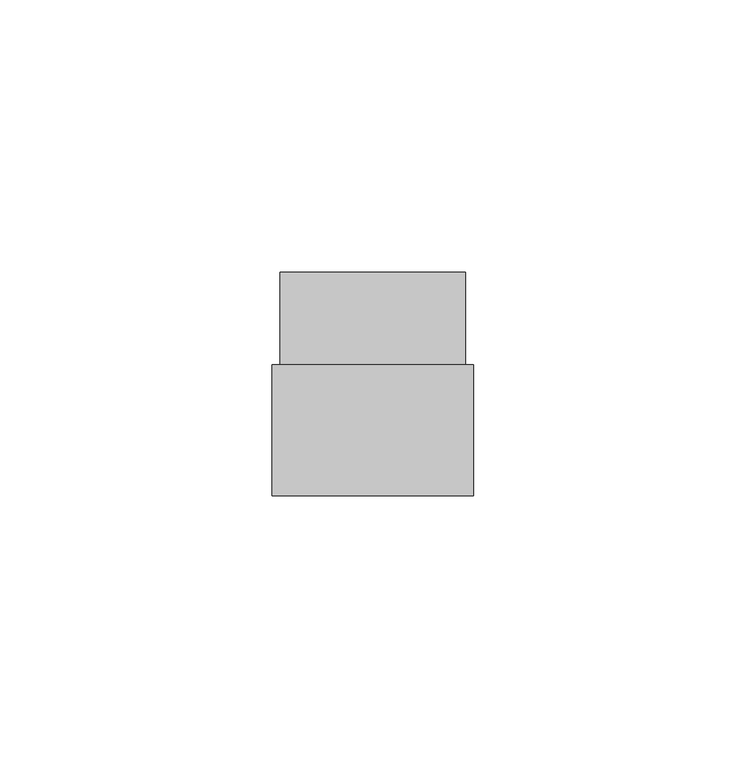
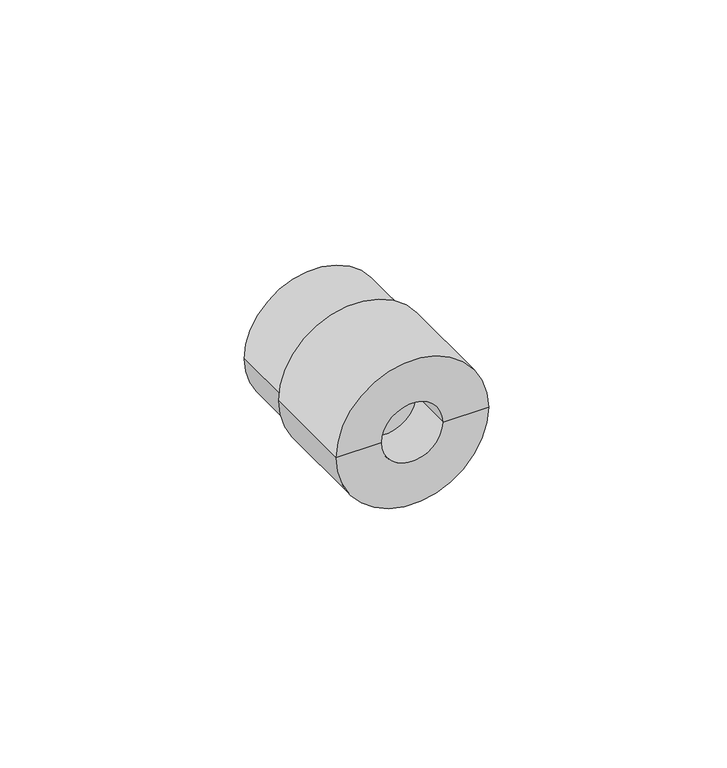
"""IFC4 building model written with IfcOpenShell, lengths in millimetres: pipe fitting geometry, NIRON RED termofusion roscado enlace rosca hembra : Estándar."""

from ifc_helpers import new_model, si_unit, frame, origin, place, context, project, spatial, polyline, circle_curve, source, transform, mapped, element, save
from ifc_brep_helpers import plane_surface, cylinder_surface, revolved_surface, advanced_brep


def pipe_fitting_128d8ab8(model_context):
    return source(origin(), model_context, "Body", "AdvancedBrep", [
        advanced_brep(
        [(17.0, 41.0, 0.0), (-17.0, 41.0, 0.0), (0.0, 41.0, 0.0), (18.5, 0.0, 0.0), (-18.5, 0.0, 0.0), (-18.5, 24.0, 0.0), (18.5, 24.0, 0.0), (7.5, 0.0, 0.0), (-7.5, 0.0, 0.0), (17.0, 24.0, 0.0), (-17.0, 24.0, 0.0), (-7.5, 11.5, 0.0), (7.5, 11.5, 0.0)],
        [
            (0, 1, circle_curve(frame((0.0, 41.0, 0.0), z_axis=(0.0, 1.0, 0.0), x_axis=(-1.0, 0.0, 0.0)), 17.0)),
            (1, 2),
            (2, 0),
            (1, 0, circle_curve(frame((0.0, 41.0, 0.0), z_axis=(0.0, 1.0, 0.0), x_axis=(-1.0, 0.0, 0.0)), 17.0)),
            (3, 4, circle_curve(frame((0.0, 0.0, 0.0), z_axis=(0.0, 1.0, 0.0), x_axis=(-1.0, 0.0, 0.0)), 18.5)),
            (4, 5),
            (5, 6, circle_curve(frame((0.0, 24.0, 0.0), z_axis=(0.0, -1.0, 0.0), x_axis=(-1.0, 0.0, 0.0)), 18.5)),
            (6, 3),
            (4, 3, circle_curve(frame((0.0, 0.0, 0.0), z_axis=(0.0, 1.0, 0.0), x_axis=(-1.0, 0.0, 0.0)), 18.5)),
            (6, 5, circle_curve(frame((0.0, 24.0, 0.0), z_axis=(0.0, -1.0, 0.0), x_axis=(-1.0, 0.0, 0.0)), 18.5)),
            (3, 7),
            (7, 8, circle_curve(frame((0.0, 0.0, 0.0), z_axis=(0.0, 1.0, 0.0), x_axis=(1.0, 0.0, 0.0)), 7.5)),
            (8, 4),
            (8, 7, circle_curve(frame((0.0, 0.0, 0.0), z_axis=(0.0, 1.0, 0.0), x_axis=(1.0, 0.0, 0.0)), 7.5)),
            (0, 9),
            (9, 10, circle_curve(frame((0.0, 24.0, 0.0), z_axis=(0.0, 1.0, 0.0), x_axis=(-1.0, 0.0, 0.0)), 17.0)),
            (10, 1),
            (10, 9, circle_curve(frame((0.0, 24.0, 0.0), z_axis=(0.0, 1.0, 0.0), x_axis=(-1.0, 0.0, 0.0)), 17.0)),
            (5, 10),
            (9, 6),
            (11, 12, circle_curve(frame((0.0, 11.5, 0.0), z_axis=(0.0, -1.0, 0.0), x_axis=(1.0, 0.0, 0.0)), 7.5)),
            (12, 11, circle_curve(frame((0.0, 11.5, 0.0), z_axis=(0.0, -1.0, 0.0), x_axis=(1.0, 0.0, 0.0)), 7.5)),
            (11, 8),
            (7, 12),
        ],
        [
            plane_surface(frame((0.0, 41.0, 0.0), z_axis=(0.0, 1.0, 0.0), x_axis=(-1.0, 0.0, 0.0))),
            cylinder_surface(frame((0.0, 51.0, 0.0), z_axis=(0.0, -1.0, 0.0), x_axis=(-1.0, 0.0, 0.0)), 18.5),
            plane_surface(frame((0.0, 0.0, 0.0), z_axis=(0.0, -1.0, 0.0), x_axis=(-1.0, 0.0, 0.0))),
            cylinder_surface(frame((0.0, 51.0, 0.0), z_axis=(0.0, -1.0, 0.0), x_axis=(-1.0, 0.0, 0.0)), 17.0),
            plane_surface(frame((0.0, 24.0, 0.0), z_axis=(0.0, 1.0, 0.0), x_axis=(-1.0, 0.0, 0.0))),
            plane_surface(frame((7.5, 11.5, 0.0), z_axis=(0.0, -1.0, 0.0), x_axis=(0.0, 0.0, -1.0))),
            revolved_surface(polyline([(7.5, 0.0, 0.0), (7.5, 11.5, 0.0)]), (0.0, 11.5, 0.0), (0.0, -1.0, 0.0)),
        ],
        [
            (0, [[1, 2, 3]]),
            (0, [[-2, 4, -3]]),
            (1, [[5, 6, 7, 8]]),
            (1, [[-6, 9, -8, 10]]),
            (2, [[-5, 11, 12, 13]]),
            (2, [[-9, -13, 14, -11]]),
            (3, [[-1, 15, 16, 17]]),
            (3, [[-4, -17, 18, -15]]),
            (4, [[-7, 19, -16, 20]]),
            (4, [[-10, -20, -18, -19]]),
            (5, [[21, 22]]),
            (6, [[-21, 23, -12, 24]]),
            (6, [[-22, -24, -14, -23]]),
        ],
    ),
    ])


if __name__ == "__main__":
    model = new_model("IFC4")
    model_context = context("Model", 3, world=origin())
    ifc_project = project(units=[si_unit("LENGTHUNIT", "METRE", prefix="MILLI")], contexts=[model_context])
    site = spatial("IfcSite", under=ifc_project)
    building = spatial("IfcBuilding", under=site)
    placement = place(None, origin())
    pipe_fitting_shape = pipe_fitting_128d8ab8(model_context)
    element("IfcPipeFitting", 1, ObjectType="NIRON RED termofusion roscado enlace rosca hembra : Estándar", at=placement, inside=building, context=model_context, shape_type="MappedRepresentation", body=[
        mapped(pipe_fitting_shape, transform((0.0, 0.0, 0.0), x_axis=(1.0, 0.0, 0.0), y_axis=(0.0, 1.0, 0.0), z_axis=(0.0, 0.0, 1.0))),
    ])
    save(model, "model.ifc")
